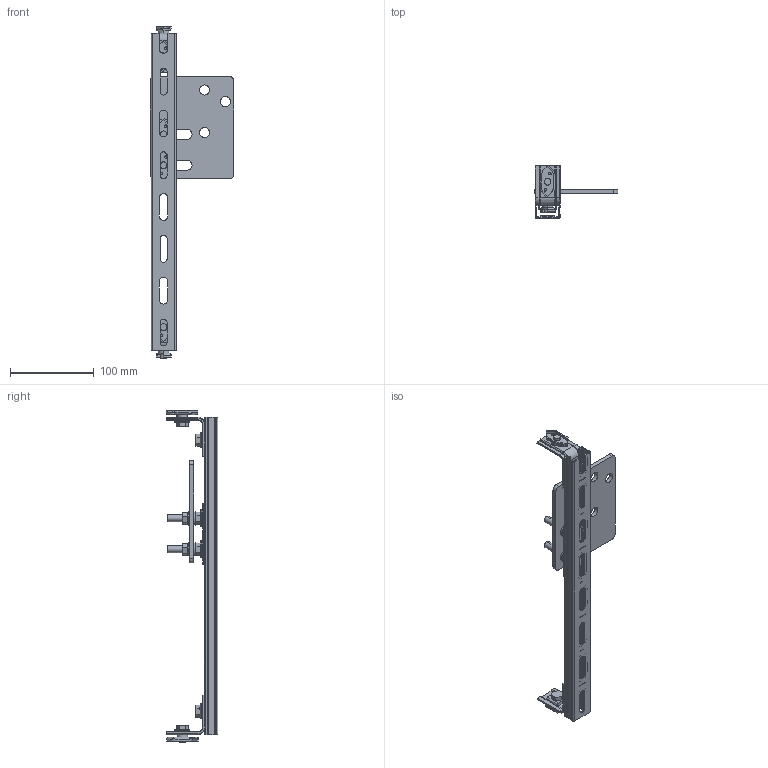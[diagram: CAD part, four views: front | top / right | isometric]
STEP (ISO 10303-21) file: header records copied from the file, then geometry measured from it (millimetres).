
FILE_DESCRIPTION (( 'STEP AP214' ), '1' );
FILE_NAME ('KP_DCSB500.STEP', '2013-03-22T12:38:24', ( '' ), ( '' ), 'SwSTEP 2.0', 'SolidWorks 2012', '' );
FILE_SCHEMA (( 'AUTOMOTIVE_DESIGN' ));
Length unit declared in the file: millimetre
Products named in the file (1): KP_DCSB500
Bounding box: 100 x 62.12 x 397.1 mm (x, y, z)
Volume: 126026.1 mm3; surface area: 115621.4 mm2
Topology: 1 solids, 3 shells, 1412 faces, 3961 edges, 2590 vertices
Faces by surface type: plane 622, cylinder 491, bspline 187, cone 112
Entity records: 56691 total; most frequent: CARTESIAN_POINT 17908, ORIENTED_EDGE 7922, DIRECTION 6883, EDGE_CURVE 3961, VERTEX_POINT 2590, AXIS2_PLACEMENT_3D 2431, LINE 2021, VECTOR 2021
